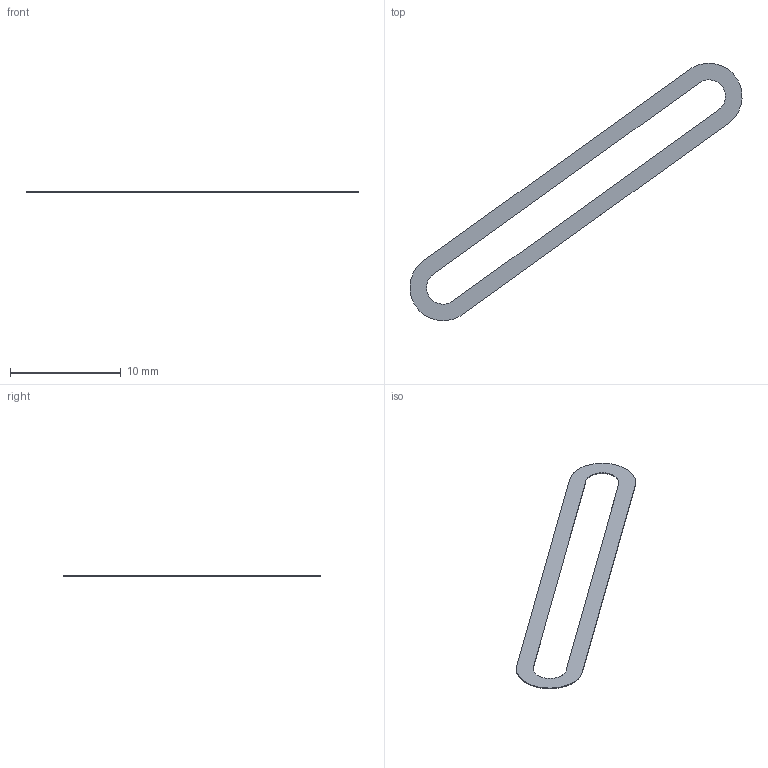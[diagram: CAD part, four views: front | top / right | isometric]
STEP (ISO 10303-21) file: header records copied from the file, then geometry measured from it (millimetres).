
FILE_DESCRIPTION(('Open CASCADE Model'),'2;1');
FILE_NAME('Open CASCADE Shape Model','2026-09-06T11:24:12',('Author'),( 'Open CASCADE'),'Open CASCADE STEP processor 7.7','Open CASCADE 7.7' ,'Unknown');
FILE_SCHEMA(('AUTOMOTIVE_DESIGN { 1 0 10303 214 1 1 1 1 }'));
Length unit declared in the file: millimetre
Products named in the file (1): Open CASCADE STEP translator 7.7 62
Bounding box: 29.98 x 23.25 x 0.08 mm (x, y, z)
Volume: 8.8 mm3; surface area: 231.5 mm2
Topology: 1 solids, 1 shells, 10 faces, 24 edges, 16 vertices
Faces by surface type: plane 6, cylinder 4
Entity records: 614 total; most frequent: CARTESIAN_POINT 107, DIRECTION 94, ORIENTED_EDGE 48, LINE 48, VECTOR 48, PCURVE 48, DEFINITIONAL_REPRESENTATION 48, EDGE_CURVE 24
